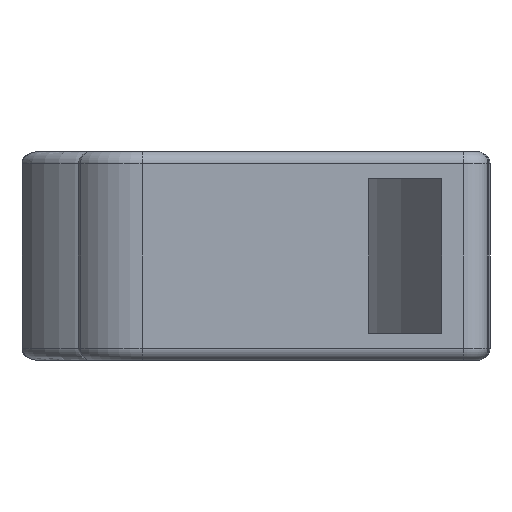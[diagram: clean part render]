
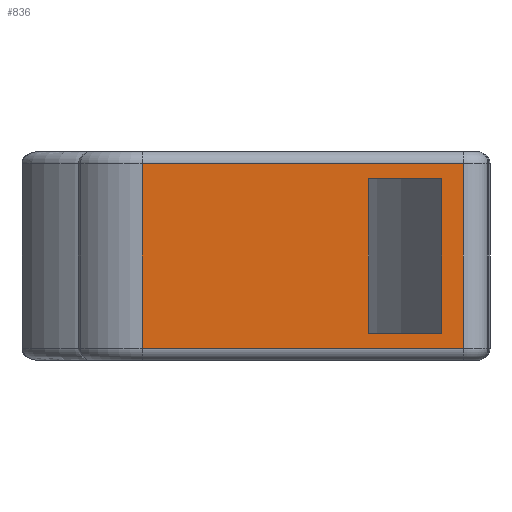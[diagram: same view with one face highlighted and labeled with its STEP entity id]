
A CAD part, left-side view. The second image highlights one B-rep face of the part: STEP entity #836.
In plain terms, the highlighted planar face has unit normal (-1, 0, 0).
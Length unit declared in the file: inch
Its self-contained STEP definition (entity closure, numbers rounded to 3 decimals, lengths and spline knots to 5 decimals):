
#61 = EDGE_CURVE ( 'NONE', #7590, #1568, #1158, .T. ) ;
#169 = LINE ( 'NONE', #7378, #7421 ) ;
#279 = ORIENTED_EDGE ( 'NONE', *, *, #3192, .F. ) ;
#303 = DIRECTION ( 'NONE',  ( 0., 1., 0. ) ) ;
#320 = VECTOR ( 'NONE', #3548, 39.37008 ) ;
#364 = VECTOR ( 'NONE', #2185, 39.37008 ) ;
#536 = DIRECTION ( 'NONE',  ( -1., 0., 0. ) ) ;
#543 = LINE ( 'NONE', #7112, #2220 ) ;
#650 = ORIENTED_EDGE ( 'NONE', *, *, #2621, .T. ) ;
#836 = ADVANCED_FACE ( 'NONE', ( #2299, #4108 ), #5956, .T. ) ;
#927 = DIRECTION ( 'NONE',  ( 0., -1., 0. ) ) ;
#1120 = CARTESIAN_POINT ( 'NONE',  ( -0.94229, 3.52115, 0.4 ) ) ;
#1158 = LINE ( 'NONE', #4176, #320 ) ;
#1490 = CARTESIAN_POINT ( 'NONE',  ( -0.94229, 3.06087, 0.37 ) ) ;
#1568 = VERTEX_POINT ( 'NONE', #7445 ) ;
#1607 = EDGE_LOOP ( 'NONE', ( #2671, #2516, #279, #4845 ) ) ;
#1859 = DIRECTION ( 'NONE',  ( 0., 1., 0. ) ) ;
#1924 = CARTESIAN_POINT ( 'NONE',  ( -0.94229, 2.86712, 0.025 ) ) ;
#1995 = EDGE_CURVE ( 'NONE', #4674, #3212, #7700, .T. ) ;
#2185 = DIRECTION ( 'NONE',  ( 0., 0., 1. ) ) ;
#2220 = VECTOR ( 'NONE', #2271, 39.37008 ) ;
#2271 = DIRECTION ( 'NONE',  ( 0., 0., 1. ) ) ;
#2299 = FACE_BOUND ( 'NONE', #1607, .T. ) ;
#2395 = EDGE_CURVE ( 'NONE', #5799, #4674, #6429, .T. ) ;
#2516 = ORIENTED_EDGE ( 'NONE', *, *, #6426, .F. ) ;
#2575 = CARTESIAN_POINT ( 'NONE',  ( -0.94229, 3.52115, 0.4 ) ) ;
#2621 = EDGE_CURVE ( 'NONE', #3212, #6395, #7254, .T. ) ;
#2671 = ORIENTED_EDGE ( 'NONE', *, *, #7452, .F. ) ;
#2692 = VERTEX_POINT ( 'NONE', #6732 ) ;
#2926 = DIRECTION ( 'NONE',  ( 0., 0., 1. ) ) ;
#3073 = VECTOR ( 'NONE', #1859, 39.37008 ) ;
#3192 = EDGE_CURVE ( 'NONE', #1568, #6792, #543, .T. ) ;
#3212 = VERTEX_POINT ( 'NONE', #7079 ) ;
#3328 = ORIENTED_EDGE ( 'NONE', *, *, #1995, .T. ) ;
#3548 = DIRECTION ( 'NONE',  ( 0., -1., 0. ) ) ;
#3795 = DIRECTION ( 'NONE',  ( 0., 0., 1. ) ) ;
#3807 = LINE ( 'NONE', #1490, #4275 ) ;
#4108 = FACE_OUTER_BOUND ( 'NONE', #7635, .T. ) ;
#4131 = ORIENTED_EDGE ( 'NONE', *, *, #2395, .T. ) ;
#4176 = CARTESIAN_POINT ( 'NONE',  ( -0.94229, 3.06087, 0.055 ) ) ;
#4268 = VECTOR ( 'NONE', #5626, 39.37008 ) ;
#4275 = VECTOR ( 'NONE', #303, 39.37008 ) ;
#4473 = AXIS2_PLACEMENT_3D ( 'NONE', #5924, #536, #2926 ) ;
#4674 = VERTEX_POINT ( 'NONE', #1924 ) ;
#4845 = ORIENTED_EDGE ( 'NONE', *, *, #61, .F. ) ;
#5046 = CARTESIAN_POINT ( 'NONE',  ( -0.94229, 3.06087, 0.055 ) ) ;
#5626 = DIRECTION ( 'NONE',  ( 0., 0., -1. ) ) ;
#5689 = EDGE_CURVE ( 'NONE', #5799, #6395, #169, .T. ) ;
#5799 = VERTEX_POINT ( 'NONE', #7540 ) ;
#5924 = CARTESIAN_POINT ( 'NONE',  ( -0.94229, 3.52115, 0. ) ) ;
#5956 = PLANE ( 'NONE',  #4473 ) ;
#6054 = ORIENTED_EDGE ( 'NONE', *, *, #5689, .F. ) ;
#6395 = VERTEX_POINT ( 'NONE', #2575 ) ;
#6426 = EDGE_CURVE ( 'NONE', #6792, #2692, #3807, .T. ) ;
#6429 = LINE ( 'NONE', #7066, #7410 ) ;
#6732 = CARTESIAN_POINT ( 'NONE',  ( -0.94229, 3.06087, 0.37 ) ) ;
#6792 = VERTEX_POINT ( 'NONE', #7461 ) ;
#6891 = LINE ( 'NONE', #5046, #4268 ) ;
#7066 = CARTESIAN_POINT ( 'NONE',  ( -0.94229, 3.52115, 0.025 ) ) ;
#7079 = CARTESIAN_POINT ( 'NONE',  ( -0.94229, 2.86712, 0.4 ) ) ;
#7112 = CARTESIAN_POINT ( 'NONE',  ( -0.94229, 2.91087, 0.055 ) ) ;
#7254 = LINE ( 'NONE', #1120, #3073 ) ;
#7378 = CARTESIAN_POINT ( 'NONE',  ( -0.94229, 3.52115, 0. ) ) ;
#7410 = VECTOR ( 'NONE', #927, 39.37008 ) ;
#7421 = VECTOR ( 'NONE', #3795, 39.37008 ) ;
#7445 = CARTESIAN_POINT ( 'NONE',  ( -0.94229, 2.91087, 0.055 ) ) ;
#7452 = EDGE_CURVE ( 'NONE', #2692, #7590, #6891, .T. ) ;
#7461 = CARTESIAN_POINT ( 'NONE',  ( -0.94229, 2.91087, 0.37 ) ) ;
#7540 = CARTESIAN_POINT ( 'NONE',  ( -0.94229, 3.52115, 0.025 ) ) ;
#7584 = CARTESIAN_POINT ( 'NONE',  ( -0.94229, 2.86712, 0. ) ) ;
#7590 = VERTEX_POINT ( 'NONE', #7634 ) ;
#7634 = CARTESIAN_POINT ( 'NONE',  ( -0.94229, 3.06087, 0.055 ) ) ;
#7635 = EDGE_LOOP ( 'NONE', ( #3328, #650, #6054, #4131 ) ) ;
#7700 = LINE ( 'NONE', #7584, #364 ) ;
